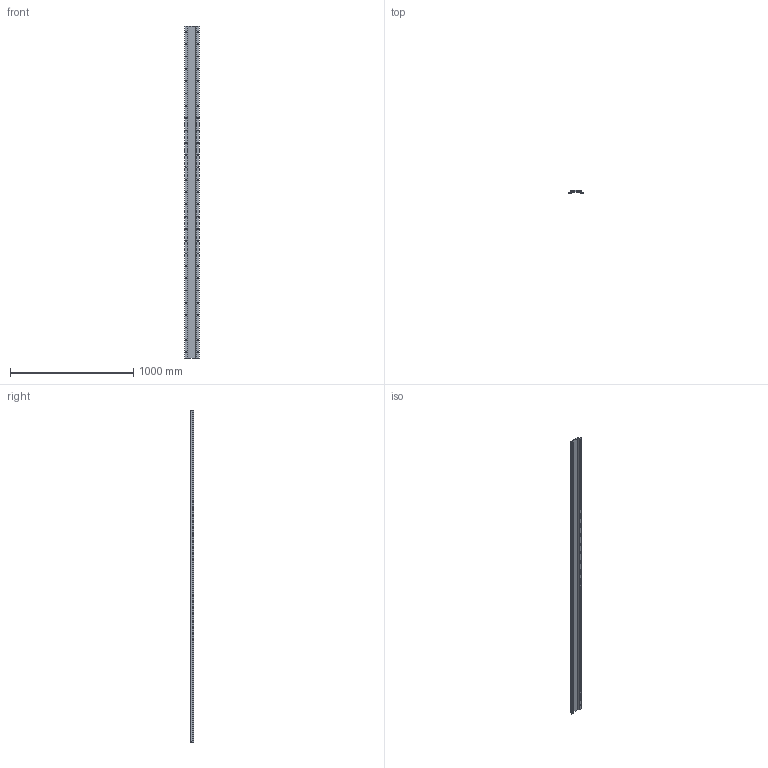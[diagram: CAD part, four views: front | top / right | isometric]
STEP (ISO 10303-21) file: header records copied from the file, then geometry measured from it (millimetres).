
FILE_DESCRIPTION (( 'STEP AP203' ), '1' );
FILE_NAME ('MLF 3_-_MLF 3 2696 mm lang.step', '2005-06-03T09:58:09', ( ' ' ), ( ' ' ), 'SwSTEP 2.0', 'SolidWorks 2004231', '' );
FILE_SCHEMA (( 'CONFIG_CONTROL_DESIGN' ));
Length unit declared in the file: millimetre
Products named in the file (1): MLF 3_-_MLF 3  2696 mm lang
Bounding box: 115 x 25.5 x 2696 mm (x, y, z)
Volume: 3499988.8 mm3; surface area: 949812.6 mm2
Topology: 1 solids, 1 shells, 296 faces, 1056 edges, 700 vertices
Faces by surface type: plane 168, cylinder 128
Entity records: 11717 total; most frequent: CARTESIAN_POINT 2701, ORIENTED_EDGE 2112, DIRECTION 1798, EDGE_CURVE 1056, VERTEX_POINT 700, AXIS2_PLACEMENT_3D 661, VECTOR 476, LINE 476
